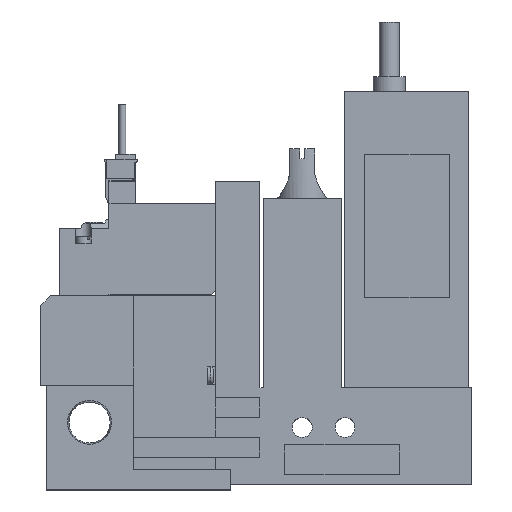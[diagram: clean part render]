
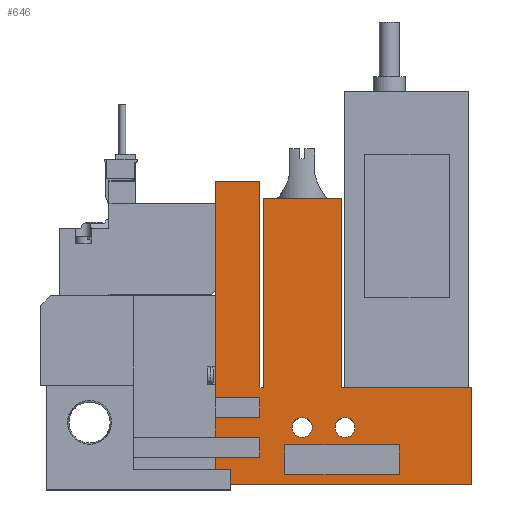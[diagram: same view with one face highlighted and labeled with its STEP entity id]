
A CAD part, top view. The second image highlights one B-rep face of the part: STEP entity #646.
In plain terms, the highlighted planar face has unit normal (0, 0, 1).
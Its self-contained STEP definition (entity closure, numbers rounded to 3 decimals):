
#646=ADVANCED_FACE('',(#1377,#1378,#1379,#1380),#1381,.T.);
#1377=FACE_OUTER_BOUND('',#2282,.T.);
#1378=FACE_BOUND('',#2283,.T.);
#1379=FACE_BOUND('',#2284,.T.);
#1380=FACE_BOUND('',#2285,.T.);
#1381=PLANE('',#2286);
#2282=EDGE_LOOP('',(#4873,#4874,#4875,#4876,#4877,#4878,#4879,#4880,#4881,#4882,#4883,#4884,#4885,#4886,#4887,#4888,#4889,#4890));
#2283=EDGE_LOOP('',(#4891,#4892,#4893,#4894));
#2284=EDGE_LOOP('',(#4895));
#2285=EDGE_LOOP('',(#4896));
#2286=AXIS2_PLACEMENT_3D('',#4897,#4898,#4899);
#4873=ORIENTED_EDGE('',*,*,#6500,.T.);
#4874=ORIENTED_EDGE('',*,*,#6491,.T.);
#4875=ORIENTED_EDGE('',*,*,#6455,.T.);
#4876=ORIENTED_EDGE('',*,*,#6495,.T.);
#4877=ORIENTED_EDGE('',*,*,#6501,.T.);
#4878=ORIENTED_EDGE('',*,*,#6502,.T.);
#4879=ORIENTED_EDGE('',*,*,#6458,.T.);
#4880=ORIENTED_EDGE('',*,*,#6503,.T.);
#4881=ORIENTED_EDGE('',*,*,#6504,.T.);
#4882=ORIENTED_EDGE('',*,*,#6462,.T.);
#4883=ORIENTED_EDGE('',*,*,#6505,.T.);
#4884=ORIENTED_EDGE('',*,*,#6506,.T.);
#4885=ORIENTED_EDGE('',*,*,#6507,.T.);
#4886=ORIENTED_EDGE('',*,*,#6421,.T.);
#4887=ORIENTED_EDGE('',*,*,#6395,.T.);
#4888=ORIENTED_EDGE('',*,*,#6508,.T.);
#4889=ORIENTED_EDGE('',*,*,#6509,.T.);
#4890=ORIENTED_EDGE('',*,*,#6403,.T.);
#4891=ORIENTED_EDGE('',*,*,#6510,.T.);
#4892=ORIENTED_EDGE('',*,*,#6511,.T.);
#4893=ORIENTED_EDGE('',*,*,#6512,.T.);
#4894=ORIENTED_EDGE('',*,*,#6513,.T.);
#4895=ORIENTED_EDGE('',*,*,#6411,.T.);
#4896=ORIENTED_EDGE('',*,*,#6514,.T.);
#4897=CARTESIAN_POINT('',(0.0,0.0,10.0));
#4898=DIRECTION('',(0.0,0.0,1.0));
#4899=DIRECTION('',(1.0,0.0,0.0));
#6395=EDGE_CURVE('',#7837,#7835,#7838,.T.);
#6403=EDGE_CURVE('',#7853,#7851,#7854,.T.);
#6411=EDGE_CURVE('',#7868,#7868,#7869,.T.);
#6421=EDGE_CURVE('',#7886,#7837,#7887,.T.);
#6455=EDGE_CURVE('',#7942,#7947,#7949,.T.);
#6458=EDGE_CURVE('',#7950,#7952,#7954,.T.);
#6462=EDGE_CURVE('',#7962,#7960,#7963,.T.);
#6491=EDGE_CURVE('',#8005,#7942,#8011,.T.);
#6495=EDGE_CURVE('',#7947,#8016,#8018,.T.);
#6500=EDGE_CURVE('',#7851,#8005,#8026,.T.);
#6501=EDGE_CURVE('',#8016,#8027,#8028,.T.);
#6502=EDGE_CURVE('',#8027,#7950,#8029,.T.);
#6503=EDGE_CURVE('',#7952,#8030,#8031,.T.);
#6504=EDGE_CURVE('',#8030,#7962,#8032,.T.);
#6505=EDGE_CURVE('',#7960,#8033,#8034,.T.);
#6506=EDGE_CURVE('',#8033,#8035,#8036,.T.);
#6507=EDGE_CURVE('',#8035,#7886,#8037,.T.);
#6508=EDGE_CURVE('',#7835,#8038,#8039,.T.);
#6509=EDGE_CURVE('',#8038,#7853,#8040,.T.);
#6510=EDGE_CURVE('',#8041,#8042,#8043,.T.);
#6511=EDGE_CURVE('',#8042,#8044,#8045,.T.);
#6512=EDGE_CURVE('',#8044,#8046,#8047,.T.);
#6513=EDGE_CURVE('',#8046,#8041,#8048,.T.);
#6514=EDGE_CURVE('',#8049,#8049,#8050,.T.);
#7835=VERTEX_POINT('',#10135);
#7837=VERTEX_POINT('',#10138);
#7838=LINE('',#10139,#10140);
#7851=VERTEX_POINT('',#10159);
#7853=VERTEX_POINT('',#10162);
#7854=LINE('',#10163,#10164);
#7868=VERTEX_POINT('',#10183);
#7869=CIRCLE('',#10184,2.0);
#7886=VERTEX_POINT('',#10206);
#7887=LINE('',#10207,#10208);
#7942=VERTEX_POINT('',#10287);
#7947=VERTEX_POINT('',#10294);
#7949=LINE('',#10297,#10298);
#7950=VERTEX_POINT('',#10299);
#7952=VERTEX_POINT('',#10302);
#7954=LINE('',#10305,#10306);
#7960=VERTEX_POINT('',#10314);
#7962=VERTEX_POINT('',#10317);
#7963=LINE('',#10318,#10319);
#8005=VERTEX_POINT('',#10404);
#8011=LINE('',#10413,#10414);
#8016=VERTEX_POINT('',#10421);
#8018=LINE('',#10424,#10425);
#8026=LINE('',#10437,#10438);
#8027=VERTEX_POINT('',#10439);
#8028=LINE('',#10440,#10441);
#8029=LINE('',#10442,#10443);
#8030=VERTEX_POINT('',#10444);
#8031=LINE('',#10445,#10446);
#8032=LINE('',#10447,#10448);
#8033=VERTEX_POINT('',#10449);
#8034=LINE('',#10450,#10451);
#8035=VERTEX_POINT('',#10452);
#8036=LINE('',#10453,#10454);
#8037=LINE('',#10455,#10456);
#8038=VERTEX_POINT('',#10457);
#8039=LINE('',#10458,#10459);
#8040=LINE('',#10460,#10461);
#8041=VERTEX_POINT('',#10462);
#8042=VERTEX_POINT('',#10463);
#8043=LINE('',#10464,#10465);
#8044=VERTEX_POINT('',#10466);
#8045=LINE('',#10467,#10468);
#8046=VERTEX_POINT('',#10469);
#8047=LINE('',#10470,#10471);
#8048=LINE('',#10472,#10473);
#8049=VERTEX_POINT('',#10474);
#8050=CIRCLE('',#10475,2.0);
#10135=CARTESIAN_POINT('',(44.75,19.5,10.0));
#10138=CARTESIAN_POINT('',(44.75,57.5,10.0));
#10139=CARTESIAN_POINT('',(44.75,57.5,10.0));
#10140=VECTOR('',#11867,1.0);
#10159=CARTESIAN_POINT('',(35.1,61.0,10.0));
#10162=CARTESIAN_POINT('',(44.1,61.0,10.0));
#10163=CARTESIAN_POINT('',(44.1,61.0,10.0));
#10164=VECTOR('',#11875,1.0);
#10183=CARTESIAN_POINT('',(54.6,11.5,10.0));
#10184=AXIS2_PLACEMENT_3D('',#11887,#11888,#11889);
#10206=CARTESIAN_POINT('',(60.45,57.5,10.0));
#10207=CARTESIAN_POINT('',(60.45,57.5,10.0));
#10208=VECTOR('',#11904,1.0);
#10287=CARTESIAN_POINT('',(44.1,17.5,10.0));
#10294=CARTESIAN_POINT('',(44.1,13.5,10.0));
#10297=CARTESIAN_POINT('',(44.1,0.0,10.0));
#10298=VECTOR('',#11950,1.0);
#10299=CARTESIAN_POINT('',(44.1,9.5,10.0));
#10302=CARTESIAN_POINT('',(44.1,5.5,10.0));
#10305=CARTESIAN_POINT('',(44.1,0.0,10.0));
#10306=VECTOR('',#11953,1.0);
#10314=CARTESIAN_POINT('',(86.6,0.0,10.0));
#10317=CARTESIAN_POINT('',(35.1,0.0,10.0));
#10318=CARTESIAN_POINT('',(18.6,0.0,10.0));
#10319=VECTOR('',#11957,1.0);
#10404=CARTESIAN_POINT('',(35.1,17.5,10.0));
#10413=CARTESIAN_POINT('',(0.0,17.5,10.0));
#10414=VECTOR('',#11993,1.0);
#10421=CARTESIAN_POINT('',(35.1,13.5,10.0));
#10424=CARTESIAN_POINT('',(0.0,13.5,10.0));
#10425=VECTOR('',#11997,1.0);
#10437=CARTESIAN_POINT('',(35.1,61.0,10.0));
#10438=VECTOR('',#12002,1.0);
#10439=CARTESIAN_POINT('',(35.1,9.5,10.0));
#10440=CARTESIAN_POINT('',(35.1,0.0,10.0));
#10441=VECTOR('',#12003,1.0);
#10442=CARTESIAN_POINT('',(0.0,9.5,10.0));
#10443=VECTOR('',#12004,1.0);
#10444=CARTESIAN_POINT('',(35.1,5.5,10.0));
#10445=CARTESIAN_POINT('',(0.0,5.5,10.0));
#10446=VECTOR('',#12005,1.0);
#10447=CARTESIAN_POINT('',(35.1,0.0,10.0));
#10448=VECTOR('',#12006,1.0);
#10449=CARTESIAN_POINT('',(86.6,19.5,10.0));
#10450=CARTESIAN_POINT('',(86.6,0.0,10.0));
#10451=VECTOR('',#12007,1.0);
#10452=CARTESIAN_POINT('',(60.45,19.5,10.0));
#10453=CARTESIAN_POINT('',(86.6,19.5,10.0));
#10454=VECTOR('',#12008,1.0);
#10455=CARTESIAN_POINT('',(60.45,19.5,10.0));
#10456=VECTOR('',#12009,1.0);
#10457=CARTESIAN_POINT('',(44.1,19.5,10.0));
#10458=CARTESIAN_POINT('',(44.75,19.5,10.0));
#10459=VECTOR('',#12010,1.0);
#10460=CARTESIAN_POINT('',(44.1,19.5,10.0));
#10461=VECTOR('',#12011,1.0);
#10462=CARTESIAN_POINT('',(49.1,2.0,10.0));
#10463=CARTESIAN_POINT('',(49.1,8.0,10.0));
#10464=CARTESIAN_POINT('',(49.1,0.0,10.0));
#10465=VECTOR('',#12012,1.0);
#10466=CARTESIAN_POINT('',(72.1,8.0,10.0));
#10467=CARTESIAN_POINT('',(0.0,8.0,10.0));
#10468=VECTOR('',#12013,1.0);
#10469=CARTESIAN_POINT('',(72.1,2.0,10.0));
#10470=CARTESIAN_POINT('',(72.1,0.0,10.0));
#10471=VECTOR('',#12014,1.0);
#10472=CARTESIAN_POINT('',(0.0,2.0,10.0));
#10473=VECTOR('',#12015,1.0);
#10474=CARTESIAN_POINT('',(63.2,11.5,10.0));
#10475=AXIS2_PLACEMENT_3D('',#12016,#12017,#12018);
#11867=DIRECTION('',(0.0,-1.0,0.0));
#11875=DIRECTION('',(-1.0,0.0,0.0));
#11887=CARTESIAN_POINT('',(52.6,11.5,10.0));
#11888=DIRECTION('',(0.0,0.0,-1.0));
#11889=DIRECTION('',(1.0,0.0,0.0));
#11904=DIRECTION('',(-1.0,0.0,0.0));
#11950=DIRECTION('',(0.0,-1.0,0.0));
#11953=DIRECTION('',(0.0,-1.0,0.0));
#11957=DIRECTION('',(1.0,0.0,0.0));
#11993=DIRECTION('',(1.0,0.0,0.0));
#11997=DIRECTION('',(-1.0,0.0,0.0));
#12002=DIRECTION('',(0.0,-1.0,0.0));
#12003=DIRECTION('',(0.0,-1.0,0.0));
#12004=DIRECTION('',(1.0,0.0,0.0));
#12005=DIRECTION('',(-1.0,0.0,0.0));
#12006=DIRECTION('',(0.0,-1.0,0.0));
#12007=DIRECTION('',(0.0,1.0,0.0));
#12008=DIRECTION('',(-1.0,0.0,0.0));
#12009=DIRECTION('',(0.0,1.0,0.0));
#12010=DIRECTION('',(-1.0,0.0,0.0));
#12011=DIRECTION('',(0.0,1.0,0.0));
#12012=DIRECTION('',(0.0,1.0,0.0));
#12013=DIRECTION('',(1.0,0.0,0.0));
#12014=DIRECTION('',(0.0,-1.0,0.0));
#12015=DIRECTION('',(-1.0,0.0,0.0));
#12016=CARTESIAN_POINT('',(61.2,11.5,10.0));
#12017=DIRECTION('',(0.0,0.0,-1.0));
#12018=DIRECTION('',(1.0,0.0,0.0));
